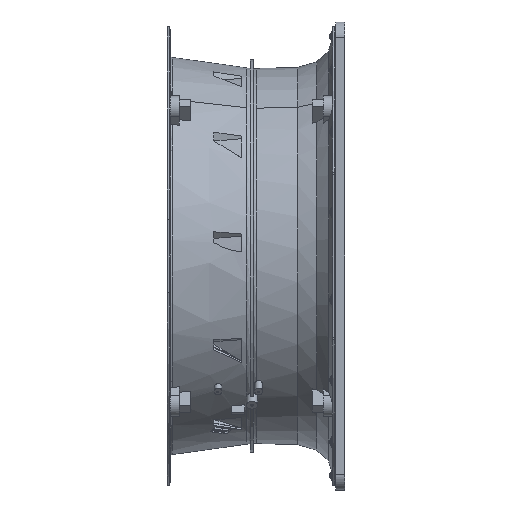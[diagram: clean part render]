
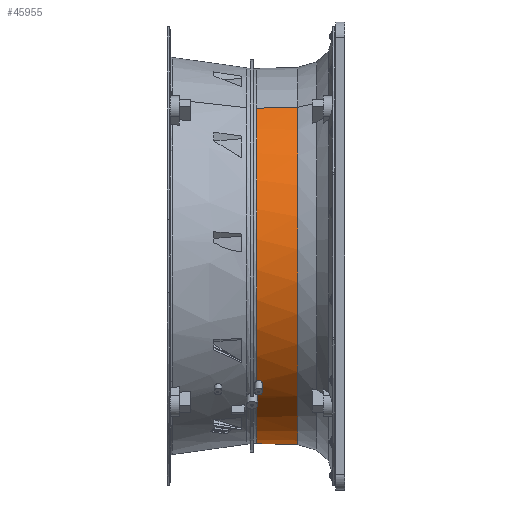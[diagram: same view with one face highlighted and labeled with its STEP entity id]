
A CAD part, front view. The second image highlights one B-rep face of the part: STEP entity #45955.
In plain terms, the highlighted conical face has half-angle 1.432 degrees and reference radius 323.613 mm.
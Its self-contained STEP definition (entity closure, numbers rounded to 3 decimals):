
#29283=CARTESIAN_POINT('',(65.137,0.,0.));
#29284=DIRECTION('',(-1.,0.,0.));
#29285=DIRECTION('',(0.,1.,0.));
#29286=AXIS2_PLACEMENT_3D('',#29283,#29284,#29285);
#30671=CARTESIAN_POINT('',(126.,0.,0.));
#30672=DIRECTION('',(1.,0.,0.));
#30673=DIRECTION('',(0.,-0.091,-0.996));
#30674=AXIS2_PLACEMENT_3D('',#30671,#30672,#30673);
#30676=CARTESIAN_POINT('',(126.,-26.426,-321.894));
#30677=CARTESIAN_POINT('',(126.,-26.195,-321.913));
#30678=CARTESIAN_POINT('',(126.025,-25.734,
-321.95));
#30679=CARTESIAN_POINT('',(126.136,-25.048,
-322.001));
#30680=CARTESIAN_POINT('',(126.319,-24.379,
-322.048));
#30681=CARTESIAN_POINT('',(126.573,-23.731,
-322.09));
#30682=CARTESIAN_POINT('',(126.894,-23.115,
-322.126));
#30683=CARTESIAN_POINT('',(127.281,-22.534,
-322.158));
#30684=CARTESIAN_POINT('',(127.725,-22.,
-322.183));
#30685=CARTESIAN_POINT('',(128.226,-21.514,
-322.204));
#30686=CARTESIAN_POINT('',(128.773,-21.085,
-322.218));
#30687=CARTESIAN_POINT('',(129.365,-20.716,
-322.227));
#30688=CARTESIAN_POINT('',(129.99,-20.413,
-322.231));
#30689=CARTESIAN_POINT('',(130.646,-20.177,
-322.229));
#30690=CARTESIAN_POINT('',(131.32,-20.014,
-322.223));
#30691=CARTESIAN_POINT('',(132.01,-19.922,
-322.211));
#30692=CARTESIAN_POINT('',(132.703,-19.905,
-322.195));
#30693=CARTESIAN_POINT('',(133.396,-19.962,
-322.174));
#30694=CARTESIAN_POINT('',(134.076,-20.091,
-322.149));
#30695=CARTESIAN_POINT('',(134.741,-20.293,
-322.12));
#30696=CARTESIAN_POINT('',(135.384,-20.566,
-322.086));
#30697=CARTESIAN_POINT('',(135.788,-20.792,
-322.062));
#30698=CARTESIAN_POINT('',(135.983,-20.916,
-322.049));
#30700=CARTESIAN_POINT('',(135.983,0.,0.));
#30701=DIRECTION('',(1.,0.,0.));
#30702=DIRECTION('',(0.,-0.065,-0.998));
#30703=AXIS2_PLACEMENT_3D('',#30700,#30701,#30702);
#30705=DIRECTION('',(-1.,0.025,0.));
#30706=VECTOR('',#30705,70.868);
#30707=CARTESIAN_POINT('',(135.983,322.727,
0.));
#30708=LINE('',#30707,#30706);
#30709=DIRECTION('',(-1.,-0.025,0.));
#30710=VECTOR('',#30709,70.868);
#30711=CARTESIAN_POINT('',(135.983,-322.727,
0.));
#30712=LINE('',#30711,#30710);
#30713=CARTESIAN_POINT('',(135.983,0.,0.));
#30714=DIRECTION('',(1.,0.,0.));
#30715=DIRECTION('',(0.,-1.,0.));
#30716=AXIS2_PLACEMENT_3D('',#30713,#30714,#30715);
#30718=CARTESIAN_POINT('',(135.983,-64.302,
-316.256));
#30719=CARTESIAN_POINT('',(135.837,-64.084,
-316.304));
#30720=CARTESIAN_POINT('',(135.562,-63.636,
-316.402));
#30721=CARTESIAN_POINT('',(135.209,-62.932,
-316.552));
#30722=CARTESIAN_POINT('',(134.916,-62.201,
-316.704));
#30723=CARTESIAN_POINT('',(134.686,-61.446,
-316.857));
#30724=CARTESIAN_POINT('',(134.522,-60.678,
-317.009));
#30725=CARTESIAN_POINT('',(134.422,-59.897,
-317.16));
#30726=CARTESIAN_POINT('',(134.4,-59.373,-317.259));
#30727=CARTESIAN_POINT('',(134.4,-59.111,-317.308));
#30729=CARTESIAN_POINT('',(134.4,-59.111,-317.308));
#30730=CARTESIAN_POINT('',(134.4,-58.848,-317.357));
#30731=CARTESIAN_POINT('',(134.422,-58.323,
-317.453));
#30732=CARTESIAN_POINT('',(134.522,-57.539,
-317.594));
#30733=CARTESIAN_POINT('',(134.687,-56.769,
-317.728));
#30734=CARTESIAN_POINT('',(134.917,-56.012,
-317.857));
#30735=CARTESIAN_POINT('',(135.21,-55.278,
-317.978));
#30736=CARTESIAN_POINT('',(135.563,-54.57,
-318.091));
#30737=CARTESIAN_POINT('',(135.837,-54.118,
-318.161));
#30738=CARTESIAN_POINT('',(135.983,-53.899,
-318.194));
#30740=CARTESIAN_POINT('',(135.983,0.,0.));
#30741=DIRECTION('',(1.,0.,0.));
#30742=DIRECTION('',(0.,-0.167,-0.986));
#30743=AXIS2_PLACEMENT_3D('',#30740,#30741,#30742);
#30745=CARTESIAN_POINT('',(135.983,-34.848,
-320.84));
#30746=CARTESIAN_POINT('',(135.788,-34.972,
-320.832));
#30747=CARTESIAN_POINT('',(135.383,-35.2,
-320.817));
#30748=CARTESIAN_POINT('',(134.739,-35.476,
-320.803));
#30749=CARTESIAN_POINT('',(134.072,-35.681,
-320.797));
#30750=CARTESIAN_POINT('',(133.391,-35.814,
-320.799));
#30751=CARTESIAN_POINT('',(132.697,-35.874,
-320.81));
#30752=CARTESIAN_POINT('',(132.004,-35.86,
-320.829));
#30753=CARTESIAN_POINT('',(131.313,-35.772,
-320.856));
#30754=CARTESIAN_POINT('',(130.639,-35.613,
-320.891));
#30755=CARTESIAN_POINT('',(129.983,-35.382,
-320.933));
#30756=CARTESIAN_POINT('',(129.358,-35.084,
-320.981));
#30757=CARTESIAN_POINT('',(128.767,-34.72,
-321.036));
#30758=CARTESIAN_POINT('',(128.221,-34.296,
-321.095));
#30759=CARTESIAN_POINT('',(127.721,-33.816,
-321.158));
#30760=CARTESIAN_POINT('',(127.278,-33.287,
-321.225));
#30761=CARTESIAN_POINT('',(126.893,-32.712,
-321.294));
#30762=CARTESIAN_POINT('',(126.572,-32.1,
-321.363));
#30763=CARTESIAN_POINT('',(126.319,-31.457,
-321.433));
#30764=CARTESIAN_POINT('',(126.135,-30.791,
-321.503));
#30765=CARTESIAN_POINT('',(126.025,-30.108,
-321.57));
#30766=CARTESIAN_POINT('',(126.,-29.647,-321.613));
#30767=CARTESIAN_POINT('',(126.,-29.417,-321.634));
#41469=CARTESIAN_POINT('',(134.4,-59.111,-317.308));
#41470=VERTEX_POINT('',#41469);
#41995=CARTESIAN_POINT('',(135.983,322.727,
0.));
#41996=CARTESIAN_POINT('',(135.983,-322.727,0.));
#41997=VERTEX_POINT('',#41995);
#41998=VERTEX_POINT('',#41996);
#42003=CARTESIAN_POINT('',(65.137,324.498,
0.));
#42004=VERTEX_POINT('',#42003);
#42005=CARTESIAN_POINT('',(65.137,-324.498,
0.));
#42006=VERTEX_POINT('',#42005);
#42735=VERTEX_POINT('',#30738);
#42736=VERTEX_POINT('',#30718);
#42958=CARTESIAN_POINT('',(126.,-29.417,-321.634));
#42959=CARTESIAN_POINT('',(126.,-26.426,-321.894));
#42960=VERTEX_POINT('',#42958);
#42961=VERTEX_POINT('',#42959);
#42962=VERTEX_POINT('',#30698);
#42963=VERTEX_POINT('',#30745);
#45933=CARTESIAN_POINT('',(100.56,0.,0.));
#45934=DIRECTION('',(-1.,0.,0.));
#45935=DIRECTION('',(0.,1.,0.));
#45936=AXIS2_PLACEMENT_3D('',#45933,#45934,#45935);
#45937=CONICAL_SURFACE('',#45936,323.613,1.432);
#45939=ORIENTED_EDGE('',*,*,#45938,.T.);
#45940=ORIENTED_EDGE('',*,*,#45921,.T.);
#45941=ORIENTED_EDGE('',*,*,#45833,.T.);
#45942=ORIENTED_EDGE('',*,*,#45802,.T.);
#45943=ORIENTED_EDGE('',*,*,#44908,.T.);
#45944=ORIENTED_EDGE('',*,*,#45799,.F.);
#45945=ORIENTED_EDGE('',*,*,#45830,.T.);
#45947=ORIENTED_EDGE('',*,*,#45946,.T.);
#45949=ORIENTED_EDGE('',*,*,#45948,.T.);
#45950=ORIENTED_EDGE('',*,*,#45818,.T.);
#45952=ORIENTED_EDGE('',*,*,#45951,.T.);
#45953=EDGE_LOOP('',(#45939,#45940,#45941,#45942,#45943,#45944,#45945,#45947,
#45949,#45950,#45952));
#45954=FACE_OUTER_BOUND('',#45953,.F.);
#45955=ADVANCED_FACE('',(#45954),#45937,.T.);
#29287=CIRCLE('',#29286,324.498);
#30675=CIRCLE('',#30674,322.977);
#30699=B_SPLINE_CURVE_WITH_KNOTS('',3,(#30676,#30677,#30678,#30679,#30680,
#30681,#30682,#30683,#30684,#30685,#30686,#30687,#30688,#30689,#30690,#30691,
#30692,#30693,#30694,#30695,#30696,#30697,#30698),.UNSPECIFIED.,.F.,.F.,(4,1,1,
1,1,1,1,1,1,1,1,1,1,1,1,1,1,1,1,1,4),(0.,0.05,0.1,0.15,0.2,0.25,
0.3,0.35,0.4,0.45,0.5,0.55,0.6,0.65,0.7,0.75,0.8,0.85,
0.9,0.95,1.),.UNSPECIFIED.);
#30704=CIRCLE('',#30703,322.727);
#30717=CIRCLE('',#30716,322.727);
#30728=B_SPLINE_CURVE_WITH_KNOTS('',3,(#30718,#30719,#30720,#30721,#30722,
#30723,#30724,#30725,#30726,#30727),.UNSPECIFIED.,.F.,.F.,(4,1,1,1,1,1,1,4),(
0.,0.143,0.286,0.429,0.571,
0.714,0.857,1.),.UNSPECIFIED.);
#30739=B_SPLINE_CURVE_WITH_KNOTS('',3,(#30729,#30730,#30731,#30732,#30733,
#30734,#30735,#30736,#30737,#30738),.UNSPECIFIED.,.F.,.F.,(4,1,1,1,1,1,1,4),(
0.,0.143,0.286,0.429,0.571,
0.714,0.857,1.),.UNSPECIFIED.);
#30744=CIRCLE('',#30743,322.727);
#30768=B_SPLINE_CURVE_WITH_KNOTS('',3,(#30745,#30746,#30747,#30748,#30749,
#30750,#30751,#30752,#30753,#30754,#30755,#30756,#30757,#30758,#30759,#30760,
#30761,#30762,#30763,#30764,#30765,#30766,#30767),.UNSPECIFIED.,.F.,.F.,(4,1,1,
1,1,1,1,1,1,1,1,1,1,1,1,1,1,1,1,1,4),(0.,0.05,0.1,0.15,0.2,0.25,
0.3,0.35,0.4,0.45,0.5,0.55,0.6,0.65,0.7,0.75,0.8,0.85,
0.9,0.95,1.),.UNSPECIFIED.);
#44908=EDGE_CURVE('',#42004,#42006,#29287,.T.);
#45799=EDGE_CURVE('',#41998,#42006,#30712,.T.);
#45802=EDGE_CURVE('',#41997,#42004,#30708,.T.);
#45818=EDGE_CURVE('',#42735,#42963,#30744,.T.);
#45830=EDGE_CURVE('',#41998,#42736,#30717,.T.);
#45833=EDGE_CURVE('',#42962,#41997,#30704,.T.);
#45921=EDGE_CURVE('',#42961,#42962,#30699,.T.);
#45938=EDGE_CURVE('',#42960,#42961,#30675,.T.);
#45946=EDGE_CURVE('',#42736,#41470,#30728,.T.);
#45948=EDGE_CURVE('',#41470,#42735,#30739,.T.);
#45951=EDGE_CURVE('',#42963,#42960,#30768,.T.);
